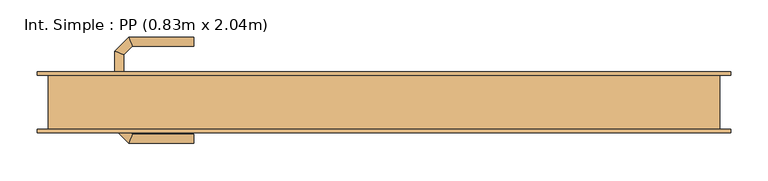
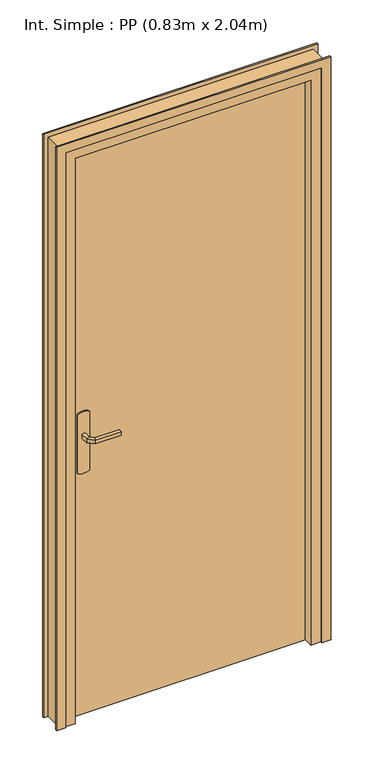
"""IFC4 building model written with IfcOpenShell, lengths in millimetres: door geometry, Int. Simple : PP (0.83m x 2.04m)."""

from ifc_helpers import new_model, si_unit, point, frame, frame_2d, origin, origin_with_axes, place, context, project, spatial, polyline, circle_curve, ellipse_curve, trimmed, segment, composite_curve, outline, extrude, faceted_brep, source, transform, mapped, element, save
from ifc_brep_helpers import plane_surface, cylinder_surface, advanced_brep


def int_simple_pp_0_83m_x_2_04m_d085e722(model_context):
    return source(origin(), model_context, "Body", "SolidModel", [
        extrude(outline(composite_curve([segment(trimmed(circle_curve(frame_2d((904.6410162, -390.0)), 40.0), [point((870.0, -410.0))], [point((870.0, -370.0))], False, "CARTESIAN"), True, "CONTINUOUS"), segment(polyline([(870.0, -370.0), (1080.0, -370.0)]), True, "CONTINUOUS"), segment(trimmed(circle_curve(frame_2d((1045.3589838, -390.0)), 40.0), [point((1080.0, -370.0))], [point((1080.0, -410.0))], False, "CARTESIAN"), True, "CONTINUOUS"), segment(polyline([(1080.0, -410.0), (870.0, -410.0)]), True, "CONTINUOUS")], self_intersect=False)), frame((0.0, 36.0, 0.0), z_axis=(0.0, 1.0, 0.0), x_axis=(0.0, 0.0, 1.0)), (0.0, 0.0, 1.0), 5.0),
        extrude(outline(composite_curve([segment(trimmed(circle_curve(frame_2d((1045.3589838, -390.0)), 40.0), [point((1080.0, -370.0))], [point((1080.0, -410.0))], False, "CARTESIAN"), True, "CONTINUOUS"), segment(polyline([(1080.0, -410.0), (870.0, -410.0)]), True, "CONTINUOUS"), segment(trimmed(circle_curve(frame_2d((904.6410162, -390.0)), 40.0), [point((870.0, -410.0))], [point((870.0, -370.0))], False, "CARTESIAN"), True, "CONTINUOUS"), segment(polyline([(870.0, -370.0), (1080.0, -370.0)]), True, "CONTINUOUS")], self_intersect=False)), frame((0.0, -9.0, 0.0), z_axis=(0.0, 1.0, 0.0), x_axis=(0.0, 0.0, 1.0)), (0.0, 0.0, 1.0), 5.0),
        advanced_brep(
        [(-396.0, 41.0, 1007.0), (-396.0, 41.0, 993.0), (-384.0, 41.0, 993.0), (-384.0, 41.0, 1007.0), (-384.0, 63.680388, 1007.0), (-396.0, 68.6509507, 1007.0), (-384.0, 63.680388, 993.0), (-396.0, 68.6509507, 993.0), (-372.6522273, 75.0281607, 1007.0), (-377.62279, 87.0281607, 1007.0), (-372.6522273, 75.0281607, 993.0), (-377.62279, 87.0281607, 993.0), (-289.9813594, 87.0281607, 1007.0), (-289.9813594, 75.0281607, 1007.0), (-289.9813594, 75.0281607, 993.0), (-289.9813594, 87.0281607, 993.0)],
        [
            (0, 1),
            (1, 2, circle_curve(frame((-390.0, 41.0, 1013.0457722), z_axis=(0.0, -1.0, 0.0), x_axis=(1.0, 0.0, 0.0)), 20.9244589)),
            (2, 3),
            (3, 0, circle_curve(frame((-390.0, 41.0, 986.9542278), z_axis=(0.0, -1.0, 0.0), x_axis=(1.0, 0.0, 0.0)), 20.9244589)),
            (3, 4),
            (4, 5, ellipse_curve(frame((-390.0, 66.1656693, 986.9542278), z_axis=(-0.3826834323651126, -0.9238795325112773, 0.0), x_axis=(0.9238795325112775, -0.38268343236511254, 0.0)), 22.6484711, 20.9244589)),
            (5, 0),
            (2, 6),
            (6, 4),
            (1, 7),
            (7, 6, ellipse_curve(frame((-390.0, 66.1656693, 1013.0457722), z_axis=(-0.3826834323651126, -0.9238795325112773, 0.0), x_axis=(0.9238795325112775, -0.38268343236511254, 0.0)), 22.6484711, 20.9244589)),
            (5, 7),
            (4, 8),
            (8, 9, ellipse_curve(frame((-375.1375086, 81.0281607, 986.9542278), z_axis=(-0.9238795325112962, -0.38268343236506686, 0.0), x_axis=(0.3826834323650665, -0.9238795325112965, 0.0)), 22.6484711, 20.9244589)),
            (9, 5),
            (6, 10),
            (10, 8),
            (7, 11),
            (11, 10, ellipse_curve(frame((-375.1375086, 81.0281607, 1013.0457722), z_axis=(-0.9238795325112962, -0.38268343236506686, 0.0), x_axis=(0.3826834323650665, -0.9238795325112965, 0.0)), 22.6484711, 20.9244589)),
            (9, 11),
            (12, 13, circle_curve(frame((-289.9813594, 81.0281607, 986.9542278), z_axis=(1.0, 0.0, 0.0), x_axis=(0.0, -1.0, 0.0)), 20.9244589)),
            (13, 14),
            (14, 15, circle_curve(frame((-289.9813594, 81.0281607, 1013.0457722), z_axis=(1.0, 0.0, 0.0), x_axis=(0.0, -1.0, 0.0)), 20.9244589)),
            (15, 12),
            (8, 13),
            (12, 9),
            (10, 14),
            (11, 15),
        ],
        [
            plane_surface(frame((-399.2195445, 41.0, 1000.0), z_axis=(0.0, -1.0, 0.0), x_axis=(0.0, 0.0, -1.0))),
            cylinder_surface(frame((-390.0, 41.0, 986.9542278), z_axis=(0.0, -1.0, 0.0), x_axis=(1.0, 0.0, 0.0)), 20.9244589),
            plane_surface(frame((-384.0, 41.0, 1007.0), z_axis=(1.0, 0.0, 0.0), x_axis=(0.0, 1.0, 0.0))),
            cylinder_surface(frame((-390.0, 41.0, 1013.0457722), z_axis=(0.0, -1.0, 0.0), x_axis=(1.0, 0.0, 0.0)), 20.9244589),
            plane_surface(frame((-396.0, 41.0, 993.0), z_axis=(-1.0, 0.0, 0.0), x_axis=(0.0, 1.0, 0.0))),
            cylinder_surface(frame((-390.0, 66.1656693, 986.9542278), z_axis=(-0.7071067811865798, -0.7071067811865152, 0.0), x_axis=(0.7071067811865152, -0.7071067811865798, 0.0)), 20.9244589),
            plane_surface(frame((-384.0, 63.680388, 1007.0), z_axis=(0.7071067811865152, -0.7071067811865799, 0.0), x_axis=(0.7071067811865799, 0.7071067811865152, 0.0))),
            cylinder_surface(frame((-390.0, 66.1656693, 1013.0457722), z_axis=(-0.7071067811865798, -0.7071067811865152, 0.0), x_axis=(0.7071067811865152, -0.7071067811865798, 0.0)), 20.9244589),
            plane_surface(frame((-396.0, 68.6509507, 993.0), z_axis=(-0.7071067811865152, 0.7071067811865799, 0.0), x_axis=(0.7071067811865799, 0.7071067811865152, 0.0))),
            plane_surface(frame((-289.9813594, 81.0281607, 990.7804555), z_axis=(1.0, 0.0, 0.0), x_axis=(0.0, -1.0, 0.0))),
            cylinder_surface(frame((-375.1375086, 81.0281607, 986.9542278), z_axis=(-1.0, 0.0, 0.0), x_axis=(0.0, -1.0, 0.0)), 20.9244589),
            plane_surface(frame((-372.6522273, 75.0281607, 1007.0), z_axis=(0.0, -1.0, 0.0), x_axis=(1.0, 0.0, 0.0))),
            cylinder_surface(frame((-375.1375086, 81.0281607, 1013.0457722), z_axis=(-1.0, 0.0, 0.0), x_axis=(0.0, -1.0, 0.0)), 20.9244589),
            plane_surface(frame((-377.62279, 87.0281607, 993.0), z_axis=(0.0, 1.0, 0.0), x_axis=(1.0, 0.0, 0.0))),
        ],
        [
            (0, [[1, 2, 3, 4]]),
            (1, [[5, 6, 7, -4]]),
            (2, [[8, 9, -5, -3]]),
            (3, [[10, 11, -8, -2]]),
            (4, [[-7, 12, -10, -1]]),
            (5, [[13, 14, 15, -6]]),
            (6, [[16, 17, -13, -9]]),
            (7, [[18, 19, -16, -11]]),
            (8, [[-15, 20, -18, -12]]),
            (9, [[21, 22, 23, 24]]),
            (10, [[25, -21, 26, -14]]),
            (11, [[27, -22, -25, -17]]),
            (12, [[28, -23, -27, -19]]),
            (13, [[-26, -24, -28, -20]]),
        ],
    ),
        advanced_brep(
        [(-384.0, -9.0, 993.0), (-396.0, -9.0, 993.0), (-396.0, -9.0, 1007.0), (-384.0, -9.0, 1007.0), (-384.0, -31.4852045, 1007.0), (-384.0, -31.4852045, 993.0), (-396.0, -36.4557673, 1007.0), (-396.0, -36.4557673, 993.0), (-372.5147186, -42.9704859, 1007.0), (-372.5147186, -42.9704859, 993.0), (-377.4852814, -54.9704859, 1007.0), (-377.4852814, -54.9704859, 993.0), (-289.9542163, -42.9704859, 993.0), (-289.9542163, -42.9704859, 1007.0), (-289.9542163, -54.9704859, 1007.0), (-289.9542163, -54.9704859, 993.0)],
        [
            (0, 1, circle_curve(frame((-390.0, -9.0, 1013.0457722), z_axis=(0.0, 1.0, 0.0), x_axis=(-1.0, 0.0, 0.0)), 20.9244589)),
            (1, 2),
            (2, 3, circle_curve(frame((-390.0, -9.0, 986.9542278), z_axis=(0.0, 1.0, 0.0), x_axis=(-1.0, 0.0, 0.0)), 20.9244589)),
            (3, 0),
            (3, 4),
            (4, 5),
            (5, 0),
            (2, 6),
            (6, 4, ellipse_curve(frame((-390.0, -33.9704859, 986.9542278), z_axis=(-0.3826834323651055, 0.9238795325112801, 0.0), x_axis=(0.9238795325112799, 0.3826834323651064, 0.0)), 22.6484711, 20.9244589)),
            (1, 7),
            (7, 6),
            (5, 7, ellipse_curve(frame((-390.0, -33.9704859, 1013.0457722), z_axis=(-0.3826834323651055, 0.9238795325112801, 0.0), x_axis=(0.9238795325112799, 0.3826834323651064, 0.0)), 22.6484711, 20.9244589)),
            (4, 8),
            (8, 9),
            (9, 5),
            (6, 10),
            (10, 8, ellipse_curve(frame((-375.0, -48.9704859, 986.9542278), z_axis=(-0.9238795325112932, 0.382683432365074, 0.0), x_axis=(0.3826834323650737, 0.9238795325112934, 0.0)), 22.6484711, 20.9244589)),
            (7, 11),
            (11, 10),
            (9, 11, ellipse_curve(frame((-375.0, -48.9704859, 1013.0457722), z_axis=(-0.9238795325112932, 0.382683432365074, 0.0), x_axis=(0.3826834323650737, 0.9238795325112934, 0.0)), 22.6484711, 20.9244589)),
            (12, 13),
            (13, 14, circle_curve(frame((-289.9542163, -48.9704859, 986.9542278), z_axis=(1.0, 0.0, 0.0), x_axis=(0.0, -1.0, 0.0)), 20.9244589)),
            (14, 15),
            (15, 12, circle_curve(frame((-289.9542163, -48.9704859, 1013.0457722), z_axis=(1.0, 0.0, 0.0), x_axis=(0.0, -1.0, 0.0)), 20.9244589)),
            (8, 13),
            (12, 9),
            (10, 14),
            (11, 15),
        ],
        [
            plane_surface(frame((-399.2195445, -9.0, 1000.0), z_axis=(0.0, 1.0, 0.0), x_axis=(0.0, 0.0, 1.0))),
            plane_surface(frame((-384.0, -9.0, 993.0), z_axis=(1.0, 0.0, 0.0), x_axis=(0.0, -1.0, 0.0))),
            cylinder_surface(frame((-390.0, -9.0, 986.9542278), z_axis=(0.0, 1.0, 0.0), x_axis=(-1.0, 0.0, 0.0)), 20.9244589),
            plane_surface(frame((-396.0, -9.0, 1007.0), z_axis=(-1.0, 0.0, 0.0), x_axis=(0.0, -1.0, 0.0))),
            cylinder_surface(frame((-390.0, -9.0, 1013.0457722), z_axis=(0.0, 1.0, 0.0), x_axis=(-1.0, 0.0, 0.0)), 20.9244589),
            plane_surface(frame((-384.0, -31.4852045, 993.0), z_axis=(0.7071067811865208, 0.7071067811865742, 0.0), x_axis=(0.7071067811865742, -0.7071067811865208, 0.0))),
            cylinder_surface(frame((-390.0, -33.9704859, 986.9542278), z_axis=(-0.7071067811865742, 0.7071067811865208, 0.0), x_axis=(-0.7071067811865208, -0.7071067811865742, 0.0)), 20.9244589),
            plane_surface(frame((-396.0, -36.4557673, 1007.0), z_axis=(-0.7071067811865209, -0.7071067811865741, 0.0), x_axis=(0.7071067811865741, -0.7071067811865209, 0.0))),
            cylinder_surface(frame((-390.0, -33.9704859, 1013.0457722), z_axis=(-0.7071067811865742, 0.7071067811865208, 0.0), x_axis=(-0.7071067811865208, -0.7071067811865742, 0.0)), 20.9244589),
            plane_surface(frame((-289.9542163, -48.9704859, 990.7804555), z_axis=(1.0, 0.0, 0.0), x_axis=(0.0, -1.0, 0.0))),
            plane_surface(frame((-372.5147186, -42.9704859, 993.0), z_axis=(0.0, 1.0, 0.0), x_axis=(1.0, 0.0, 0.0))),
            cylinder_surface(frame((-375.0, -48.9704859, 986.9542278), z_axis=(-1.0, 0.0, 0.0), x_axis=(0.0, -1.0, 0.0)), 20.9244589),
            plane_surface(frame((-377.4852814, -54.9704859, 1007.0), z_axis=(0.0, -1.0, 0.0), x_axis=(1.0, 0.0, 0.0))),
            cylinder_surface(frame((-375.0, -48.9704859, 1013.0457722), z_axis=(-1.0, 0.0, 0.0), x_axis=(0.0, -1.0, 0.0)), 20.9244589),
        ],
        [
            (0, [[1, 2, 3, 4]]),
            (1, [[5, 6, 7, -4]]),
            (2, [[8, 9, -5, -3]]),
            (3, [[10, 11, -8, -2]]),
            (4, [[-7, 12, -10, -1]]),
            (5, [[13, 14, 15, -6]]),
            (6, [[16, 17, -13, -9]]),
            (7, [[18, 19, -16, -11]]),
            (8, [[-15, 20, -18, -12]]),
            (9, [[21, 22, 23, 24]]),
            (10, [[25, -21, 26, -14]]),
            (11, [[27, -22, -25, -17]]),
            (12, [[28, -23, -27, -19]]),
            (13, [[-26, -24, -28, -20]]),
        ],
    ),
        extrude(outline(polyline([(-450.0, -4.0), (-450.0, 36.0), (380.0, 36.0), (380.0, -4.0), (-450.0, -4.0)])), origin_with_axes(), (0.0, 0.0, 1.0), 2040.0),
        faceted_brep([(-485.0, 36.0, 0.0), (-450.0, 36.0, 0.0), (-450.0, -4.0, 0.0), (-435.0, -4.0, 0.0), (-435.0, -36.0, 0.0), (-485.0, -36.0, 0.0), (-485.0, -36.0, 2075.0), (-485.0, 36.0, 2075.0), (-435.0, -36.0, 2025.0), (365.0, -36.0, 2025.0), (365.0, -36.0, 0.0), (415.0, -36.0, 0.0), (415.0, -36.0, 2075.0), (-435.0, -4.0, 2025.0), (-450.0, -4.0, 2040.0), (380.0, -4.0, 2040.0), (380.0, -4.0, 0.0), (365.0, -4.0, 0.0), (365.0, -4.0, 2025.0), (-450.0, 36.0, 2040.0), (415.0, 36.0, 2075.0), (415.0, 36.0, 0.0), (380.0, 36.0, 0.0), (380.0, 36.0, 2040.0)], [[[0, 1, 2, 3, 4, 5]], [[5, 6, 7, 0]], [[4, 8, 9, 10, 11, 12, 6, 5]], [[3, 13, 8, 4]], [[2, 14, 15, 16, 17, 18, 13, 3]], [[1, 19, 14, 2]], [[0, 7, 20, 21, 22, 23, 19, 1]], [[12, 11, 21, 20]], [[21, 11, 10, 17, 16, 22]], [[18, 17, 10, 9]], [[23, 22, 16, 15]], [[6, 12, 20, 7]], [[13, 18, 9, 8]], [[19, 23, 15, 14]]]),
        extrude(outline(polyline([(0.0, -470.0), (2060.0, -470.0), (2060.0, 400.0), (0.0, 400.0), (0.0, 430.0), (2090.0, 430.0), (2090.0, -500.0), (0.0, -500.0), (0.0, -470.0)])), frame((0.0, 36.0, 0.0), z_axis=(0.0, 1.0, 0.0), x_axis=(0.0, 0.0, 1.0)), (0.0, 0.0, 1.0), 5.0),
        extrude(outline(polyline([(0.0, -470.0), (2060.0, -470.0), (2060.0, 400.0), (0.0, 400.0), (0.0, 430.0), (2090.0, 430.0), (2090.0, -500.0), (0.0, -500.0), (0.0, -470.0)])), frame((0.0, -41.0, 0.0), z_axis=(0.0, 1.0, 0.0), x_axis=(0.0, 0.0, 1.0)), (0.0, 0.0, 1.0), 5.0),
    ])


if __name__ == "__main__":
    model = new_model("IFC4")
    model_context = context("Model", 3, world=origin())
    ifc_project = project(units=[si_unit("LENGTHUNIT", "METRE", prefix="MILLI")], contexts=[model_context])
    site = spatial("IfcSite", under=ifc_project)
    building = spatial("IfcBuilding", under=site)
    placement = place(None, origin())
    int_simple_pp_0_83m_x_2_04m_shape = int_simple_pp_0_83m_x_2_04m_d085e722(model_context)
    element("IfcDoor", 1, ObjectType="Int. Simple : PP (0.83m x 2.04m)", at=placement, inside=building, context=model_context, shape_type="MappedRepresentation", body=[
        mapped(int_simple_pp_0_83m_x_2_04m_shape, transform((0.0, 0.0, 0.0), x_axis=(1.0, 0.0, 0.0), y_axis=(0.0, 1.0, 0.0), z_axis=(0.0, 0.0, 1.0))),
    ])
    save(model, "model.ifc")
